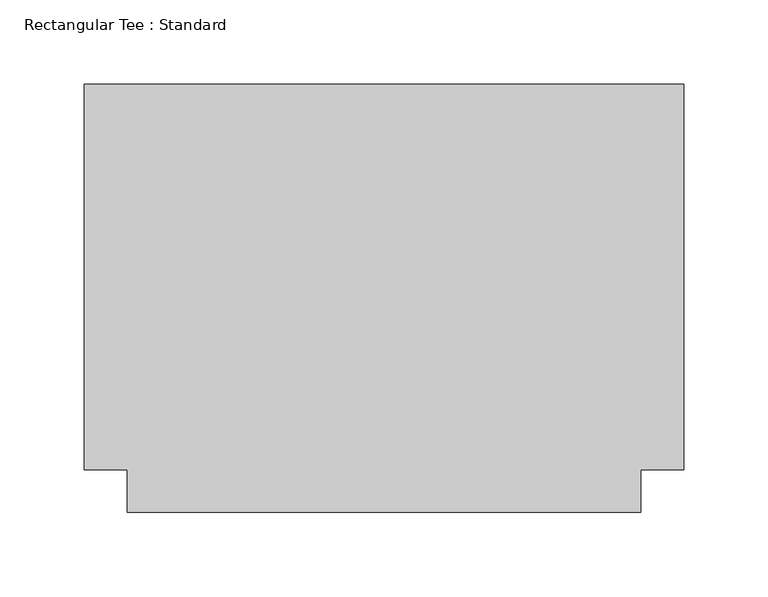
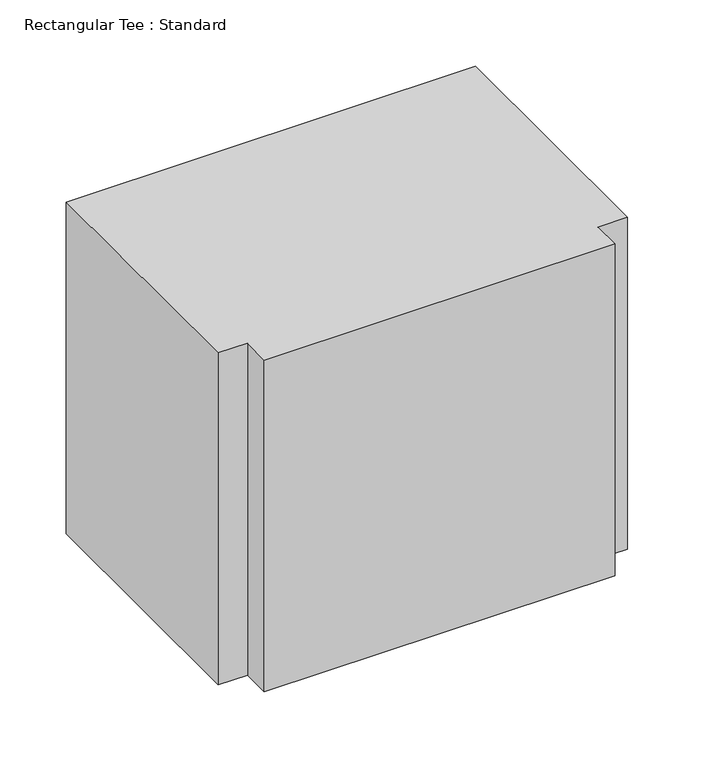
"""IFC4 building model written with IfcOpenShell, lengths in millimetres: duct fitting geometry, Rectangular Tee : Standard."""

from ifc_helpers import new_model, si_unit, frame, origin, place, context, project, spatial, polyline, outline, extrude, source, transform, mapped, element, save


def rectangular_tee_standard_a9e45034(model_context):
    return source(origin(), model_context, "Body", "SweptSolid", [
        extrude(outline(polyline([(-177.8, -114.3), (-177.8, 114.3), (177.8, 114.3), (177.8, -114.3), (152.4, -114.3), (152.4, -139.7), (-152.4, -139.7), (-152.4, -114.3), (-177.8, -114.3)])), frame((0.0, 0.0, -152.4), z_axis=(0.0, 0.0, 1.0), x_axis=(1.0, 0.0, 0.0)), (0.0, 0.0, 1.0), 304.8),
    ])


if __name__ == "__main__":
    model = new_model("IFC4")
    model_context = context("Model", 3, world=origin())
    ifc_project = project(units=[si_unit("LENGTHUNIT", "METRE", prefix="MILLI")], contexts=[model_context])
    site = spatial("IfcSite", under=ifc_project)
    building = spatial("IfcBuilding", under=site)
    placement = place(None, origin())
    rectangular_tee_standard_shape = rectangular_tee_standard_a9e45034(model_context)
    element("IfcDuctFitting", 1, ObjectType="Rectangular Tee : Standard", at=placement, inside=building, context=model_context, shape_type="MappedRepresentation", body=[
        mapped(rectangular_tee_standard_shape, transform((0.0, 0.0, 0.0), x_axis=(1.0, 0.0, 0.0), y_axis=(0.0, 1.0, 0.0), z_axis=(0.0, 0.0, 1.0))),
    ])
    save(model, "model.ifc")
